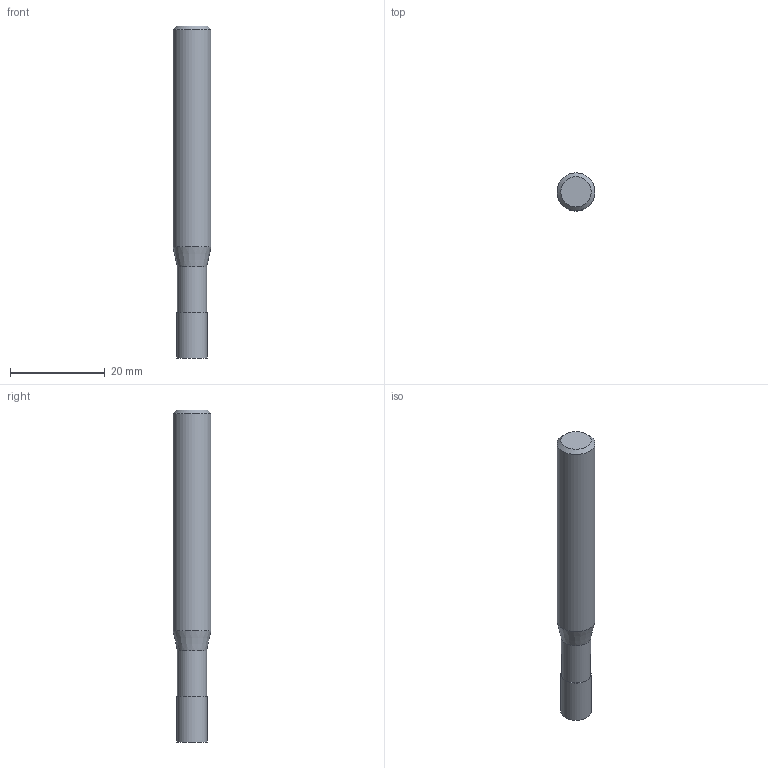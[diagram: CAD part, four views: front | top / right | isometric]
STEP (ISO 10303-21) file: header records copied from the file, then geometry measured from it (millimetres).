
FILE_DESCRIPTION((''),'2;1');
FILE_NAME('C:\Users\nsx150\AppData\Local\Temp\Mastercam 2021\EUJSUNXURU\TEMP.step','2021-04-22T10:28:57',(''),(''),'STEP Write','Mastercam 2021 ... CNC Software, Inc.','');
FILE_SCHEMA(('AUTOMOTIVE_DESIGN'));
Length unit declared in the file: millimetre
Products named in the file (1): None
Bounding box: 8 x 8 x 70 mm (x, y, z)
Volume: 3100.3 mm3; surface area: 1779.1 mm2
Topology: 2 solids, 2 shells, 9 faces, 12 edges, 7 vertices
Faces by surface type: plane 4, cylinder 3, cone 2
Full cylindrical faces by diameter (mm): 6.2 x1, 6.4 x1, 8 x1
Entity records: 211 total; most frequent: DIRECTION 36, CARTESIAN_POINT 25, AXIS2_PLACEMENT_3D 18, ORIENTED_EDGE 14, EDGE_LOOP 14, STYLED_ITEM 12, ADVANCED_FACE 9, FACE_BOUND 8
